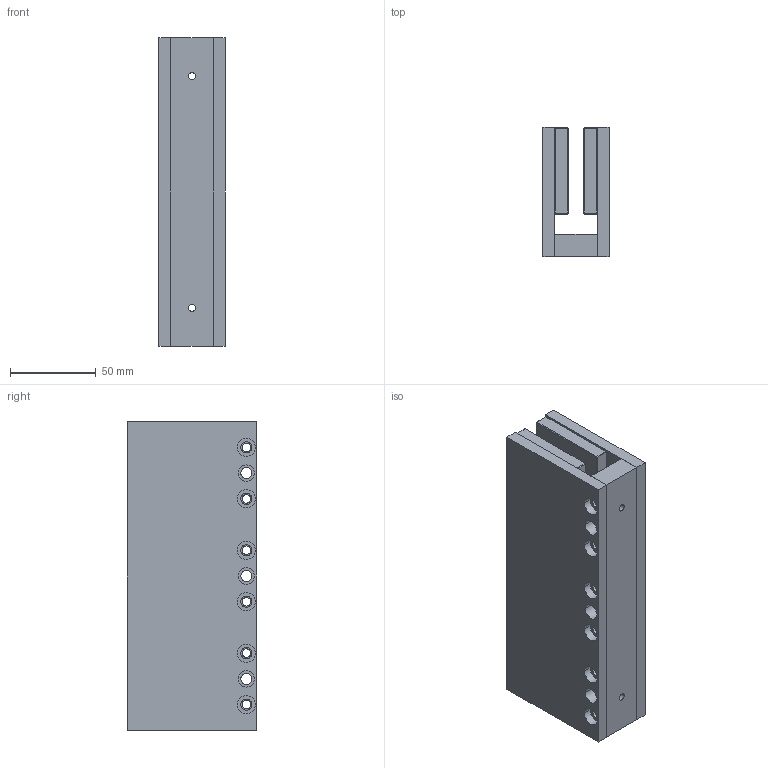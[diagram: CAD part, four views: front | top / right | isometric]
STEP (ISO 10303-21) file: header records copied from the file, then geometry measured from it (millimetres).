
FILE_DESCRIPTION (( 'STEP AP214' ), '1' );
FILE_NAME ('JKA4-180.STEP', '2025-09-05T08:41:54', ( '' ), ( '' ), 'SwSTEP 2.0', 'SolidWorks 2016', '' );
FILE_SCHEMA (( 'AUTOMOTIVE_DESIGN' ));
Length unit declared in the file: millimetre
Products named in the file (1): JKA4-180
Bounding box: 38.6 x 75.3 x 180 mm (x, y, z)
Volume: 361878 mm3; surface area: 128906.4 mm2
Topology: 15 solids, 15 shells, 424 faces, 858 edges, 476 vertices
Faces by surface type: plane 342, cylinder 82
Entity records: 15542 total; most frequent: DIRECTION 1872, CARTESIAN_POINT 1759, ORIENTED_EDGE 1716, EDGE_CURVE 858, VECTOR 694, LINE 694, AXIS2_PLACEMENT_3D 589, EDGE_LOOP 494
